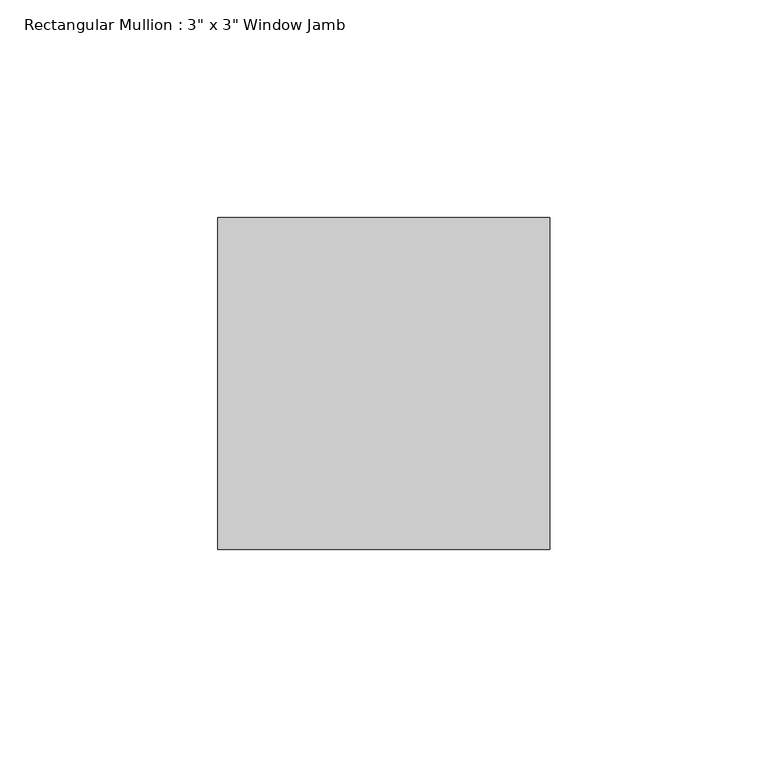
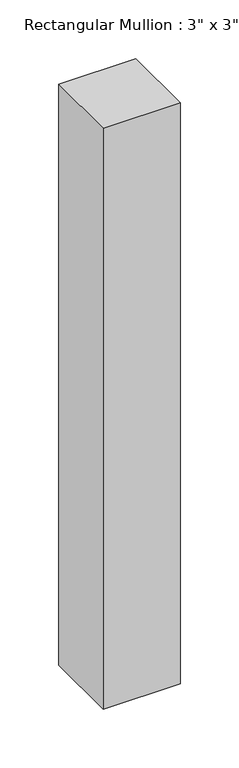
"""IFC4 building model written with IfcOpenShell, lengths in millimetres: member geometry."""

from ifc_helpers import new_model, si_unit, frame, origin, place, context, project, spatial, polyline, outline, extrude, source, transform, mapped, element, save


def member_934bc167(model_context):
    return source(origin(), model_context, "Body", "SweptSolid", [
        extrude(outline(polyline([(0.0, 50.8), (0.0, -25.4), (-76.2, -25.4), (-76.2, 50.8), (0.0, 50.8)])), frame((0.0, 0.0, -605.9998817), z_axis=(0.0, 0.0, 1.0), x_axis=(1.0, 0.0, 0.0)), (0.0, 0.0, 1.0), 605.9998817),
    ])


if __name__ == "__main__":
    model = new_model("IFC4")
    model_context = context("Model", 3, world=origin())
    ifc_project = project(units=[si_unit("LENGTHUNIT", "METRE", prefix="MILLI")], contexts=[model_context])
    site = spatial("IfcSite", under=ifc_project)
    building = spatial("IfcBuilding", under=site)
    placement = place(None, origin())
    member_shape = member_934bc167(model_context)
    element("IfcMember", 1, ObjectType="Rectangular Mullion : 3\" x 3\" Window Jamb", at=placement, inside=building, context=model_context, shape_type="MappedRepresentation", body=[
        mapped(member_shape, transform((0.0, 0.0, 0.0), x_axis=(1.0, 0.0, 0.0), y_axis=(0.0, 1.0, 0.0), z_axis=(0.0, 0.0, 1.0))),
    ])
    save(model, "model.ifc")
